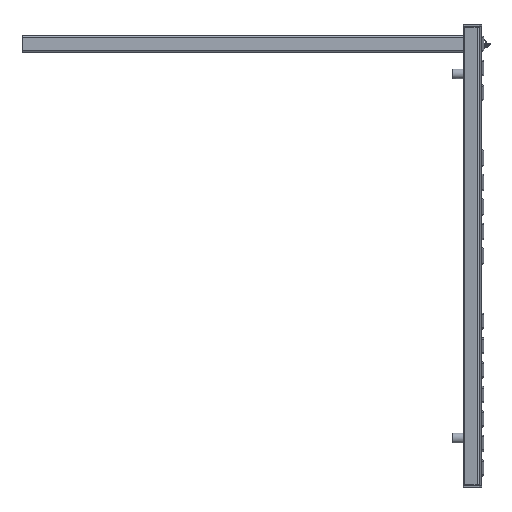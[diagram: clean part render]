
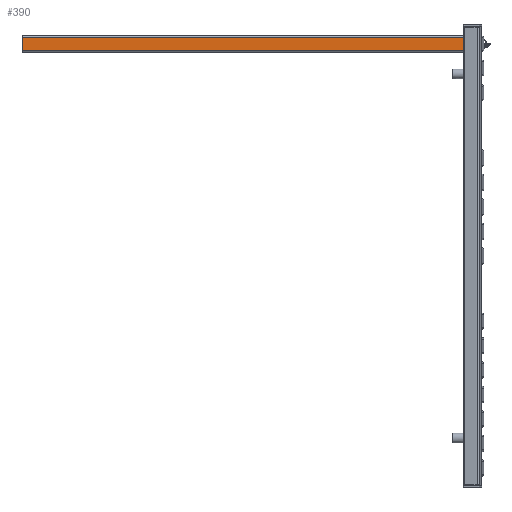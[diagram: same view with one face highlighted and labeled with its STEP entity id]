
A CAD part, left-side view. The second image highlights one B-rep face of the part: STEP entity #390.
In plain terms, the highlighted planar face has unit normal (-1, 0, 0).
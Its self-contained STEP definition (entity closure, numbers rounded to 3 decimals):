
#390 = ADVANCED_FACE( '', ( #907 ), #908, .T. );
#907 = FACE_OUTER_BOUND( '', #1573, .T. );
#908 = PLANE( '', #1574 );
#1573 = EDGE_LOOP( '', ( #2735, #2736, #2737, #2738 ) );
#1574 = AXIS2_PLACEMENT_3D( '', #2739, #2740, #2741 );
#2735 = ORIENTED_EDGE( '', *, *, #3882, .T. );
#2736 = ORIENTED_EDGE( '', *, *, #3812, .T. );
#2737 = ORIENTED_EDGE( '', *, *, #3902, .F. );
#2738 = ORIENTED_EDGE( '', *, *, #3941, .T. );
#2739 = CARTESIAN_POINT( '', ( -15., 846., 15. ) );
#2740 = DIRECTION( '', ( -1., 0., 0. ) );
#2741 = DIRECTION( '', ( 0., 0., 1. ) );
#3812 = EDGE_CURVE( '', #4536, #4540, #4542, .T. );
#3882 = EDGE_CURVE( '', #4665, #4536, #4666, .T. );
#3902 = EDGE_CURVE( '', #4698, #4540, #4700, .T. );
#3941 = EDGE_CURVE( '', #4698, #4665, #4766, .F. );
#4536 = VERTEX_POINT( '', #5607 );
#4540 = VERTEX_POINT( '', #5612 );
#4542 = LINE( '', #5614, #5615 );
#4665 = VERTEX_POINT( '', #5773 );
#4666 = LINE( '', #5774, #5775 );
#4698 = VERTEX_POINT( '', #5812 );
#4700 = LINE( '', #5814, #5815 );
#4766 = LINE( '', #5902, #5903 );
#5607 = CARTESIAN_POINT( '', ( -15., 846., -12. ) );
#5612 = CARTESIAN_POINT( '', ( -15., 0., -12. ) );
#5614 = CARTESIAN_POINT( '', ( -15., 846., -12. ) );
#5615 = VECTOR( '', #6946, 1000. );
#5773 = CARTESIAN_POINT( '', ( -15., 846., 12. ) );
#5774 = CARTESIAN_POINT( '', ( -15., 846., 15. ) );
#5775 = VECTOR( '', #7045, 1000. );
#5812 = CARTESIAN_POINT( '', ( -15., 0., 12. ) );
#5814 = CARTESIAN_POINT( '', ( -15., 0., 15. ) );
#5815 = VECTOR( '', #7084, 1000. );
#5902 = CARTESIAN_POINT( '', ( -15., 846., 12. ) );
#5903 = VECTOR( '', #7130, 1000. );
#6946 = DIRECTION( '', ( 0., -1., 0. ) );
#7045 = DIRECTION( '', ( 0., 0., -1. ) );
#7084 = DIRECTION( '', ( 0., 0., -1. ) );
#7130 = DIRECTION( '', ( 0., -1., 0. ) );
